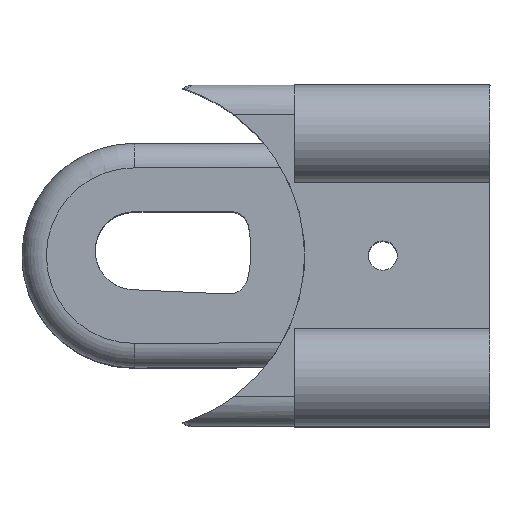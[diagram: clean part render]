
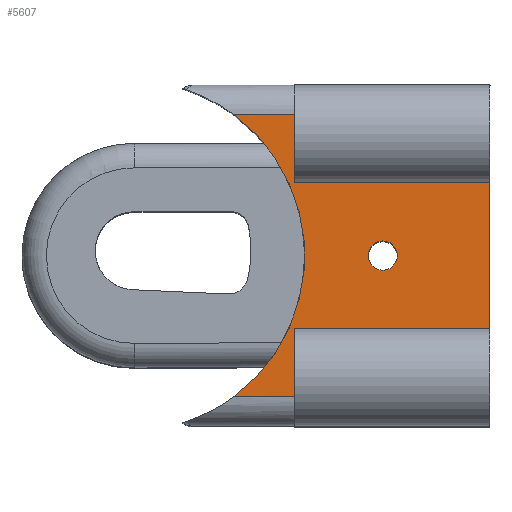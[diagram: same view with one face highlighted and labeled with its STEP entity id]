
A CAD part, top view. The second image highlights one B-rep face of the part: STEP entity #5607.
In plain terms, the highlighted free-form (B-spline) face has degree [1, 1] with [2, 2] control points.
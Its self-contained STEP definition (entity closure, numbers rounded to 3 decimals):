
#4474=CARTESIAN_POINT('',(19.,7.509,50.0));
#4475=VERTEX_POINT('',#4474);
#4482=CARTESIAN_POINT('',(19.,-7.509,50.0));
#4483=VERTEX_POINT('',#4482);
#4484=CARTESIAN_POINT('',(19.,-7.509,50.0));
#4485=DIRECTION('',(0.,1.,0.0));
#4486=VECTOR('',#4485,15.018);
#4487=LINE('',#4484,#4486);
#4488=EDGE_CURVE('',#4483,#4475,#4487,.T.);
#4848=CARTESIAN_POINT('',(-7.335,-14.5,50.0));
#4849=VERTEX_POINT('',#4848);
#4866=CARTESIAN_POINT('',(-7.335,14.5,50.0));
#4867=VERTEX_POINT('',#4866);
#4868=CARTESIAN_POINT('',(-18.0,0.,50.0));
#4869=DIRECTION('',(0.,0.,-1.));
#4870=DIRECTION('',(-0.306,0.952,0.));
#4871=AXIS2_PLACEMENT_3D('',#4868,#4869,#4870);
#4872=CIRCLE('',#4871,18.);
#4873=EDGE_CURVE('',#4867,#4849,#4872,.T.);
#5002=CARTESIAN_POINT('',(-1.,14.5,50.0));
#5003=VERTEX_POINT('',#5002);
#5013=CARTESIAN_POINT('',(-1.,7.509,50.0));
#5014=VERTEX_POINT('',#5013);
#5015=CARTESIAN_POINT('',(-1.,7.509,50.0));
#5016=DIRECTION('',(0.,1.,0.0));
#5017=VECTOR('',#5016,6.991);
#5018=LINE('',#5015,#5017);
#5019=EDGE_CURVE('',#5014,#5003,#5018,.T.);
#5098=CARTESIAN_POINT('',(19.,7.509,50.0));
#5099=DIRECTION('',(-1.,0.,0.0));
#5100=VECTOR('',#5099,20.);
#5101=LINE('',#5098,#5100);
#5102=EDGE_CURVE('',#4475,#5014,#5101,.T.);
#5158=CARTESIAN_POINT('',(-1.,-14.5,50.0));
#5159=VERTEX_POINT('',#5158);
#5160=CARTESIAN_POINT('',(-1.,-7.509,50.0));
#5161=VERTEX_POINT('',#5160);
#5162=CARTESIAN_POINT('',(-1.,-14.5,50.0));
#5163=DIRECTION('',(0.,1.,0.0));
#5164=VECTOR('',#5163,6.991);
#5165=LINE('',#5162,#5164);
#5166=EDGE_CURVE('',#5159,#5161,#5165,.T.);
#5288=CARTESIAN_POINT('',(-1.,-7.509,50.0));
#5289=DIRECTION('',(1.,0.,0.0));
#5290=VECTOR('',#5289,20.);
#5291=LINE('',#5288,#5290);
#5292=EDGE_CURVE('',#5161,#4483,#5291,.T.);
#5571=CARTESIAN_POINT('',(-7.335,14.5,50.0));
#5572=CARTESIAN_POINT('',(19.,14.5,50.0));
#5573=CARTESIAN_POINT('',(-7.335,-14.5,50.0));
#5574=CARTESIAN_POINT('',(19.,-14.5,50.0));
#5575=B_SPLINE_SURFACE_WITH_KNOTS('',1,1,((#5571,#5573),(#5572,#5574)),.UNSPECIFIED.,.F.,.F.,.U.,(2,2),(2,2),(0.0,26.335),(0.0,29.),.UNSPECIFIED.);
#5576=ORIENTED_EDGE('',*,*,#5019,.T.);
#5577=CARTESIAN_POINT('',(-7.335,14.5,50.0));
#5578=DIRECTION('',(1.0,0.0,0.0));
#5579=VECTOR('',#5578,6.335);
#5580=LINE('',#5577,#5579);
#5581=EDGE_CURVE('',#4867,#5003,#5580,.T.);
#5582=ORIENTED_EDGE('',*,*,#5581,.F.);
#5583=ORIENTED_EDGE('',*,*,#4873,.T.);
#5584=CARTESIAN_POINT('',(-1.,-14.5,50.0));
#5585=DIRECTION('',(-1.0,0.0,0.0));
#5586=VECTOR('',#5585,6.335);
#5587=LINE('',#5584,#5586);
#5588=EDGE_CURVE('',#5159,#4849,#5587,.T.);
#5589=ORIENTED_EDGE('',*,*,#5588,.F.);
#5590=ORIENTED_EDGE('',*,*,#5166,.T.);
#5591=ORIENTED_EDGE('',*,*,#5292,.T.);
#5592=ORIENTED_EDGE('',*,*,#4488,.T.);
#5593=ORIENTED_EDGE('',*,*,#5102,.T.);
#5594=EDGE_LOOP('',(#5576,#5582,#5583,#5589,#5590,#5591,#5592,#5593));
#5595=FACE_OUTER_BOUND('',#5594,.T.);
#5596=CARTESIAN_POINT('',(9.5,0.,50.0));
#5597=VERTEX_POINT('',#5596);
#5598=CARTESIAN_POINT('',(8.,0.,50.0));
#5599=DIRECTION('',(0.0,0.0,-1.0));
#5600=DIRECTION('',(-1.0,0.0,0.0));
#5601=AXIS2_PLACEMENT_3D('',#5598,#5599,#5600);
#5602=CIRCLE('',#5601,1.5);
#5603=EDGE_CURVE('',#5597,#5597,#5602,.T.);
#5604=ORIENTED_EDGE('',*,*,#5603,.T.);
#5605=EDGE_LOOP('',(#5604));
#5606=FACE_BOUND('',#5605,.T.);
#5607=ADVANCED_FACE('',(#5595,#5606),#5575,.F.);
